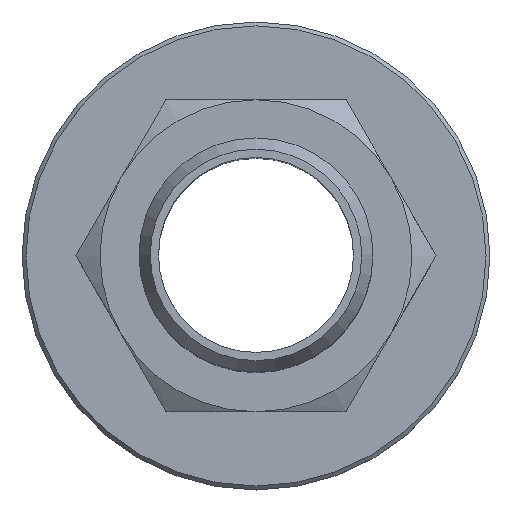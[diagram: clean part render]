
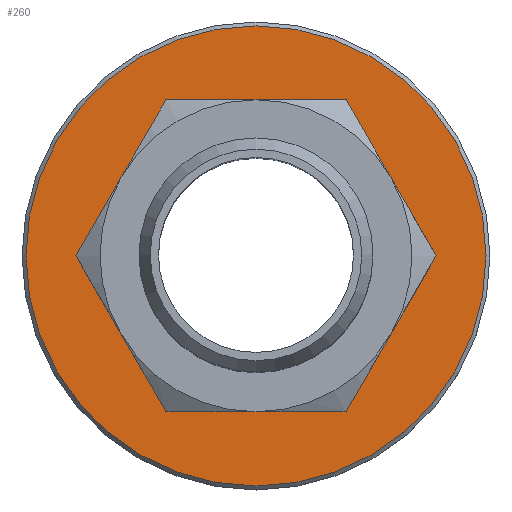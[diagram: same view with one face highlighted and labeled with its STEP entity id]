
A CAD part, top view. The second image highlights one B-rep face of the part: STEP entity #260.
In plain terms, the highlighted planar face has unit normal (0, 0, 1).
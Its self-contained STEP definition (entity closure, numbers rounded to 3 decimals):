
#260=ADVANCED_FACE('', (#270,#280), #290, .T.);
#2160=AXIS2_PLACEMENT_3D('Ax2Pl3d', #2170, #2180, #2190);
#2200=AXIS2_PLACEMENT_3D('Ax2Pl3d', #2210, #2220, #2230);
#2170=CARTESIAN_POINT('HicPkt', (30.249,15.217,
22.565));
#2210=CARTESIAN_POINT('HicPkt', (18.449,15.217,
22.565));
#6170=CARTESIAN_POINT('', (18.449,27.017,22.565));
#6180=CARTESIAN_POINT('', (13.83,23.217,22.565));
#6190=CARTESIAN_POINT('', (23.068,23.217,22.565));
#6200=CARTESIAN_POINT('', (13.83,23.217,22.565));
#6210=CARTESIAN_POINT('', (23.068,23.217,22.565));
#6220=CARTESIAN_POINT('', (27.687,15.217,22.565));
#6230=CARTESIAN_POINT('', (27.687,15.217,22.565));
#6240=CARTESIAN_POINT('', (23.068,7.217,22.565));
#6250=CARTESIAN_POINT('', (23.068,7.217,22.565));
#6260=CARTESIAN_POINT('', (13.83,7.217,22.565));
#6270=CARTESIAN_POINT('', (13.83,7.217,22.565));
#6280=CARTESIAN_POINT('', (9.211,15.217,22.565));
#6290=CARTESIAN_POINT('', (9.211,15.217,22.565));
#6790=CIRCLE('Circle', #2200, 11.8);
#2180=DIRECTION('Axis', (0.,0.,1.));
#2190=DIRECTION('RefDirection', (1.,0.,-0.));
#2220=DIRECTION('Axis', (0.,0.,1.));
#2230=DIRECTION('RefDirection', (1.,0.,-0.));
#9090=DIRECTION('', (-1.,0.,0.));
#9100=DIRECTION('', (-0.5,0.866,0.));
#9110=DIRECTION('', (0.5,0.866,0.));
#9120=DIRECTION('', (1.,0.,0.));
#9130=DIRECTION('', (0.5,-0.866,0.));
#9140=DIRECTION('', (-0.5,-0.866,0.));
#9290=EDGE_CURVE('', #9300, #9300, #6790, .T.);
#9310=EDGE_CURVE('', #9320, #9330, #9340, .T.);
#9350=EDGE_CURVE('', #9360, #9320, #9370, .T.);
#9380=EDGE_CURVE('', #9390, #9360, #9400, .T.);
#9410=EDGE_CURVE('', #9420, #9390, #9430, .T.);
#9440=EDGE_CURVE('', #9450, #9420, #9460, .T.);
#9470=EDGE_CURVE('', #9330, #9450, #9480, .T.);
#10610=EDGE_LOOP('Edge_loop', (#10620));
#10630=EDGE_LOOP('Edge_loop', (#10640,#10650,#10660,#10670,#10680,
#10690));
#280=FACE_BOUND('', #10630, .T.);
#270=FACE_OUTER_BOUND('Face_outer_bound', #10610, .T.);
#9340=LINE('Line', #6180, #12970);
#9370=LINE('Line', #6210, #12980);
#9400=LINE('Line', #6230, #12990);
#9430=LINE('Line', #6250, #13000);
#9460=LINE('Line', #6270, #13010);
#9480=LINE('Line', #6290, #13020);
#10620=ORIENTED_EDGE('', *, *, #9290, .T.);
#10640=ORIENTED_EDGE('', *, *, #9310, .F.);
#10650=ORIENTED_EDGE('', *, *, #9350, .F.);
#10660=ORIENTED_EDGE('', *, *, #9380, .F.);
#10670=ORIENTED_EDGE('', *, *, #9410, .F.);
#10680=ORIENTED_EDGE('', *, *, #9440, .F.);
#10690=ORIENTED_EDGE('', *, *, #9470, .F.);
#290=PLANE('Plane', #2160);
#12970=VECTOR('', #9090, 9.238);
#12980=VECTOR('', #9100, 9.238);
#12990=VECTOR('', #9110, 9.238);
#13000=VECTOR('', #9120, 9.238);
#13010=VECTOR('', #9130, 9.238);
#13020=VECTOR('', #9140, 9.238);
#9300=VERTEX_POINT('', #6170);
#9320=VERTEX_POINT('', #6190);
#9330=VERTEX_POINT('', #6200);
#9360=VERTEX_POINT('', #6220);
#9390=VERTEX_POINT('', #6240);
#9420=VERTEX_POINT('', #6260);
#9450=VERTEX_POINT('', #6280);
